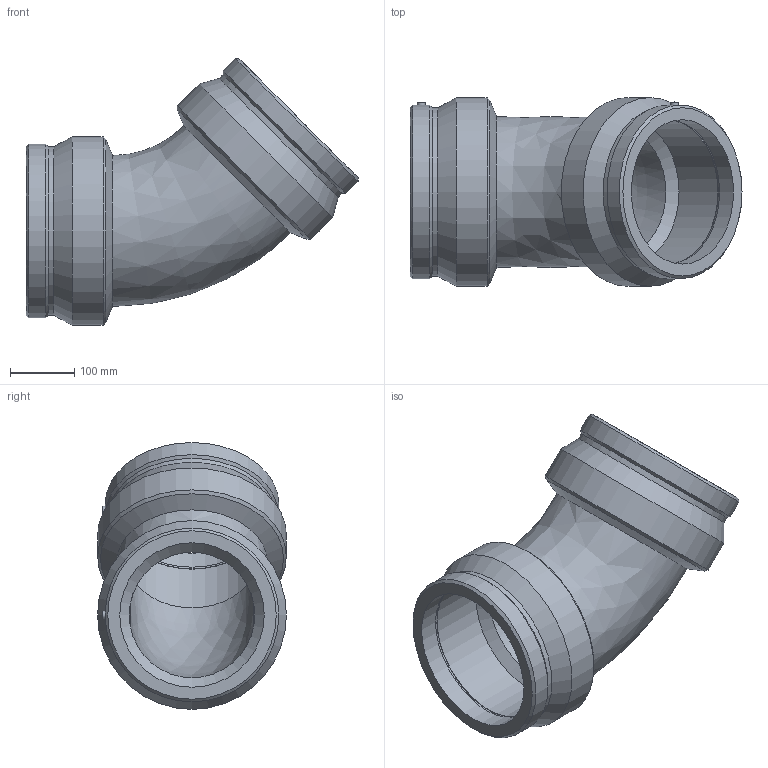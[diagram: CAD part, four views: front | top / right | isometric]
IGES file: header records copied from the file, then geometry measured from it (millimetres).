
Global section: file name: 490604225.ipt; native system: Autodesk Inventor 2015; preprocessor: unknown; author: KIM; date: 20171106.093700; units: millimetre
Bounding box: 517.13 x 294 x 415.54 mm (x, y, z)
Volume: 8904197 mm3; surface area: 800202.5 mm2
Topology: 1 solids, 1 shells, 42 faces, 98 edges, 64 vertices
Faces by surface type: revolution 12, cone 10, cylinder 10, plane 10
Full cylindrical faces by diameter (mm): 4.8 x2, 12 x2, 262.366 x2, 270.48 x2, 294 x2
